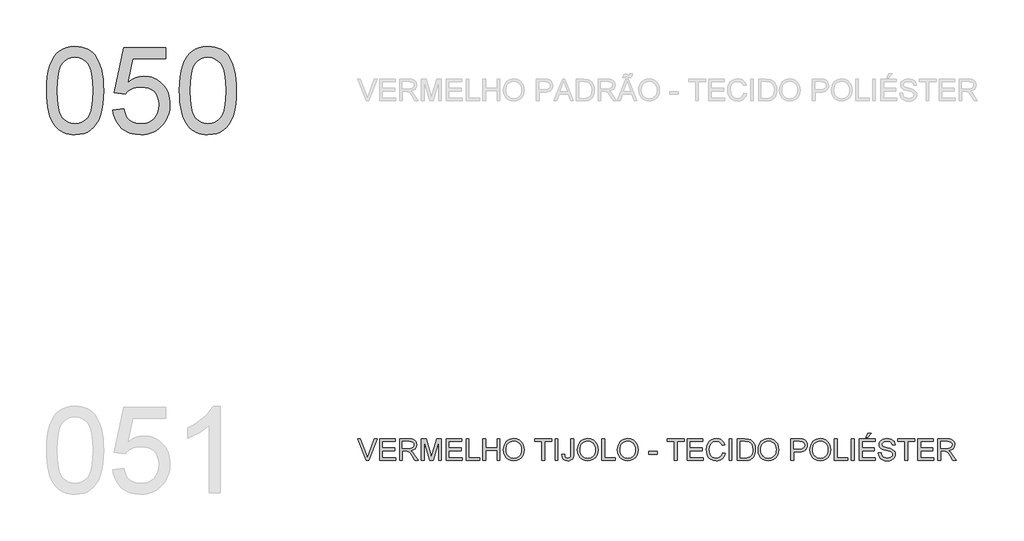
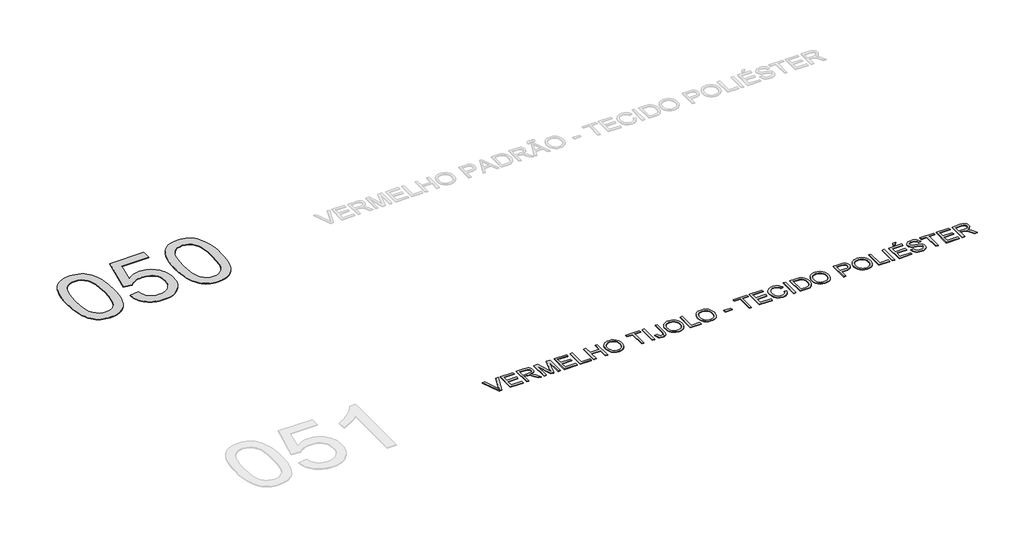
# One storey, part 24 of 39: 2 proxies.
"""IFC4 building model written with IfcOpenShell, lengths in millimetres."""

from ifc_helpers import new_model, si_unit, origin, origin_with_axes, place, context, project, spatial, polyline, outline, extrude, element, save

model = new_model("IFC4")

# Units and contexts
model_context = context("Model", 3, world=origin())
ifc_project = project(units=[si_unit("LENGTHUNIT", "METRE", prefix="MILLI")], contexts=[model_context])

# Site, building, storey
site = spatial("IfcSite", under=ifc_project)
building = spatial("IfcBuilding", under=site)
storey = spatial("IfcBuildingStorey", under=building, Name="Marelli - Linha PROFIT - Planta Baixa", Elevation=0.0)

# Proxies
placement = place(None, origin())
element("IfcBuildingElementProxy", 1, Name="1200mm Arial", ObjectType="1200mm Arial", at=placement, inside=storey, context=model_context, shape_type="SweptSolid", body=[
    extrude(outline(polyline([(-25228.2202746, -34387.5405438), (-25225.4519626, -34286.1798571), (-25217.1470265, -34194.5864374), (-25203.3054665, -34112.7602846), (-25183.9272824, -34040.7013988), (-25159.0952477, -33977.8211688), (-25128.8921359, -33923.5309833), (-25093.317947, -33877.8308425), (-25052.3726809, -33840.7207462), (-25005.918382, -33812.0075565), (-24953.8170944, -33791.4981353), (-24896.0688182, -33779.1924825), (-24832.6735534, -33775.0905983), (-24785.032835, -33777.5186194), (-24739.8201378, -33784.8026829), (-24697.0354618, -33796.9427888), (-24656.6788069, -33813.938937), (-24619.7250605, -33835.5060189), (-24587.1491098, -33861.3589261), (-24558.9509549, -33891.4976586), (-24535.1305957, -33925.9222163), (-24514.4924157, -33964.4946435), (-24495.8407986, -34007.0769844), (-24464.4972526, -34104.2714076), (-24452.5226937, -34161.4310726), (-24443.9694373, -34227.6958169), (-24438.8374834, -34303.0656407), (-24437.1268322, -34387.5405438), (-24439.867553, -34488.2574371), (-24448.0897156, -34579.3910043), (-24461.7933199, -34660.9412456), (-24480.978366, -34732.9081609), (-24505.6172626, -34795.8159821), (-24535.6824187, -34850.188941), (-24571.1738342, -34896.0270376), (-24612.0915091, -34933.3302719), (-24658.6009903, -34962.2365997), (-24710.8678248, -34982.8839766), (-24768.8920125, -34995.2724028), (-24832.6735534, -34999.4018782), (-24875.3478648, -34997.6084535), (-24915.6677315, -34992.2281793), (-24953.6331534, -34983.2610557), (-24989.2441305, -34970.7070826), (-25022.5006629, -34954.5662601), (-25053.4027505, -34934.8385881), (-25081.9503933, -34911.5240666), (-25108.1435914, -34884.6226957), (-25136.286564, -34842.0265592), (-25160.6771403, -34793.8478134), (-25181.3153202, -34740.0864583), (-25198.2011038, -34680.742494), (-25211.334491, -34615.8159204), (-25220.7154819, -34545.3067375), (-25226.3440764, -34469.2149453), (-25228.2202746, -34387.5405438)]), holes=[polyline([(-25077.5358094, -34387.2462382), (-25073.1212254, -34518.2398197), (-25059.8774736, -34624.2726077), (-25049.9446597, -34667.9287043), (-25037.8045539, -34705.3446024), (-25023.4571561, -34736.5203023), (-25006.9024663, -34761.4558037), (-24969.5256556, -34799.6327578), (-24928.0285665, -34826.9020107), (-24882.4111991, -34843.2635624), (-24832.6735534, -34848.717413), (-24782.9359076, -34843.2451683), (-24737.3185402, -34826.8284343), (-24695.8214512, -34799.4672109), (-24658.4446405, -34761.1614981), (-24641.8899507, -34736.1662158), (-24627.5425529, -34704.9583263), (-24615.402447, -34667.5378296), (-24605.4696332, -34623.9047257), (-24592.2258813, -34518.0006964), (-24587.8112974, -34387.2462382), (-24592.0787285, -34259.7199446), (-24604.881022, -34155.5541577), (-24614.482742, -34112.2314542), (-24626.2181777, -34074.7488774), (-24640.0873289, -34043.1064273), (-24656.0901957, -34017.3041039), (-24692.841607, -33977.2601487), (-24734.8169427, -33948.6573236), (-24782.0162026, -33931.4956285), (-24834.4393869, -33925.7750635), (-24883.9195153, -33930.8150468), (-24928.7643305, -33945.9349968), (-24968.9738326, -33971.1349135), (-25004.5480215, -34006.4147968), (-25021.6545343, -34034.9624397), (-25036.4801787, -34068.954736), (-25049.0249547, -34108.3916859), (-25059.2888624, -34153.2732893), (-25072.9740726, -34259.3704567), (-25077.5358094, -34387.2462382)])]), origin_with_axes(), (0.0, 0.0, 1.0), 10.0),
    extrude(outline(polyline([(-24305.2779251, -34660.3618315), (-24154.5934599, -34641.5262733), (-24143.3362708, -34689.967135), (-24126.9287338, -34731.9884559), (-24105.3708489, -34767.590236), (-24078.6626161, -34796.7724753), (-24046.8592176, -34819.4983855), (-24010.0158358, -34835.7311786), (-23968.1324706, -34845.4708544), (-23921.2091221, -34848.717413), (-23863.8195309, -34844.2016615), (-23813.1989683, -34830.654407), (-23769.3474345, -34808.0756496), (-23732.2649294, -34776.4653891), (-23702.7791875, -34737.3871242), (-23681.7179433, -34692.4043532), (-23669.0811967, -34641.5170763), (-23664.8689479, -34584.7252933), (-23668.8144823, -34531.0513102), (-23680.6510855, -34483.3370154), (-23700.3787575, -34441.5824089), (-23727.9974983, -34405.7874908), (-23763.5992783, -34377.0743011), (-23807.2760682, -34356.5648798), (-23859.0278679, -34344.2592271), (-23918.8546774, -34340.1573429), (-23957.141996, -34341.7944177), (-23991.9528298, -34346.7056424), (-24023.2871787, -34354.8910168), (-24051.1450428, -34366.3505409), (-24098.4178792, -34396.4432881), (-24135.7579017, -34434.3351336), (-24286.4423669, -34415.4995755), (-24154.5934599, -33793.9261564), (-23570.6911571, -33793.9261564), (-23570.6911571, -33944.6106217), (-24032.7509431, -33944.6106217), (-24097.2038686, -34276.5873341), (-24044.0265262, -34238.4747594), (-23989.5615968, -34211.2514918), (-23933.8090805, -34194.9175312), (-23876.7689771, -34189.4728776), (-23839.3300863, -34191.1605363), (-23803.3857161, -34196.2235123), (-23768.9358665, -34204.6618055), (-23735.9805376, -34216.4754161), (-23704.5197292, -34231.664344), (-23674.5534414, -34250.2285891), (-23646.0816742, -34272.1681516), (-23619.1044277, -34297.4830314), (-23594.5138156, -34325.4512601), (-23573.2019517, -34355.3508693), (-23555.1688362, -34387.1818589), (-23540.4144689, -34420.944229), (-23528.9388499, -34456.6379796), (-23520.7419792, -34494.2631106), (-23515.8238568, -34533.8196222), (-23514.1844827, -34575.3075142), (-23520.0889887, -34653.3720736), (-23527.4696212, -34690.3626082), (-23537.8025067, -34725.9919794), (-23551.0876453, -34760.2601873), (-23567.3250369, -34793.1672317), (-23586.5146814, -34824.7131128), (-23608.656579, -34854.8978305), (-23638.6573557, -34888.7659667), (-23671.2700946, -34918.1183514), (-23706.4947956, -34942.9549846), (-23744.3314588, -34963.2758663), (-23784.7800842, -34979.0809965), (-23827.8406717, -34990.3703752), (-23873.5132214, -34997.1440025), (-23921.7977333, -34999.4018782), (-23999.55879, -34993.5985397), (-24035.6181234, -34986.3443667), (-24069.79666, -34976.1885243), (-24102.0943999, -34963.1310128), (-24132.5113431, -34947.171832), (-24161.0474896, -34928.3109819), (-24187.7028394, -34906.5484626), (-24212.0405327, -34882.3901119), (-24233.6237095, -34856.3417673), (-24252.4523698, -34828.4034291), (-24268.5265138, -34798.5750971), (-24281.8461413, -34766.8567713), (-24292.4112523, -34733.2484518), (-24305.2779251, -34660.3618315)])), origin_with_axes(), (0.0, 0.0, 1.0), 10.0),
    extrude(outline(polyline([(-23382.3355756, -34387.5405438), (-23379.5672636, -34286.1798571), (-23371.2623275, -34194.5864374), (-23357.4207675, -34112.7602846), (-23338.0425834, -34040.7013988), (-23313.2105487, -33977.8211688), (-23283.0074369, -33923.5309833), (-23247.433248, -33877.8308425), (-23206.4879819, -33840.7207462), (-23160.033683, -33812.0075565), (-23107.9323954, -33791.4981353), (-23050.1841192, -33779.1924825), (-22986.7888544, -33775.0905983), (-22939.148136, -33777.5186194), (-22893.9354388, -33784.8026829), (-22851.1507628, -33796.9427888), (-22810.7941079, -33813.938937), (-22773.8403615, -33835.5060189), (-22741.2644108, -33861.3589261), (-22713.0662559, -33891.4976586), (-22689.2458967, -33925.9222163), (-22668.6077167, -33964.4946435), (-22649.9560996, -34007.0769844), (-22618.6125536, -34104.2714076), (-22606.6379947, -34161.4310726), (-22598.0847383, -34227.6958169), (-22592.9527844, -34303.0656407), (-22591.2421332, -34387.5405438), (-22593.982854, -34488.2574371), (-22602.2050166, -34579.3910043), (-22615.9086209, -34660.9412456), (-22635.093667, -34732.9081609), (-22659.7325636, -34795.8159821), (-22689.7977197, -34850.188941), (-22725.2891352, -34896.0270376), (-22766.2068101, -34933.3302719), (-22812.7162913, -34962.2365997), (-22864.9831258, -34982.8839766), (-22923.0073135, -34995.2724028), (-22986.7888544, -34999.4018782), (-23029.4631658, -34997.6084535), (-23069.7830325, -34992.2281793), (-23107.7484544, -34983.2610557), (-23143.3594315, -34970.7070826), (-23176.6159639, -34954.5662601), (-23207.5180515, -34934.8385881), (-23236.0656943, -34911.5240666), (-23262.2588924, -34884.6226957), (-23290.401865, -34842.0265592), (-23314.7924413, -34793.8478134), (-23335.4306212, -34740.0864583), (-23352.3164048, -34680.742494), (-23365.449792, -34615.8159204), (-23374.8307829, -34545.3067375), (-23380.4593774, -34469.2149453), (-23382.3355756, -34387.5405438)]), holes=[polyline([(-23231.6511104, -34387.2462382), (-23227.2365264, -34518.2398197), (-23213.9927746, -34624.2726077), (-23204.0599607, -34667.9287043), (-23191.9198549, -34705.3446024), (-23177.5724571, -34736.5203023), (-23161.0177673, -34761.4558037), (-23123.6409566, -34799.6327578), (-23082.1438675, -34826.9020107), (-23036.5265001, -34843.2635624), (-22986.7888544, -34848.717413), (-22937.0512086, -34843.2451683), (-22891.4338412, -34826.8284343), (-22849.9367522, -34799.4672109), (-22812.5599415, -34761.1614981), (-22796.0052517, -34736.1662158), (-22781.6578539, -34704.9583263), (-22769.517748, -34667.5378296), (-22759.5849342, -34623.9047257), (-22746.3411823, -34518.0006964), (-22741.9265984, -34387.2462382), (-22746.1940295, -34259.7199446), (-22758.996323, -34155.5541577), (-22768.598043, -34112.2314542), (-22780.3334787, -34074.7488774), (-22794.2026299, -34043.1064273), (-22810.2054967, -34017.3041039), (-22846.956908, -33977.2601487), (-22888.9322437, -33948.6573236), (-22936.1315036, -33931.4956285), (-22988.554688, -33925.7750635), (-23038.0348163, -33930.8150468), (-23082.8796315, -33945.9349968), (-23123.0891336, -33971.1349135), (-23158.6633225, -34006.4147968), (-23175.7698353, -34034.9624397), (-23190.5954797, -34068.954736), (-23203.1402557, -34108.3916859), (-23213.4041634, -34153.2732893), (-23227.0893736, -34259.3704567), (-23231.6511104, -34387.2462382)])]), origin_with_axes(), (0.0, 0.0, 1.0), 10.0),
])
element("IfcBuildingElementProxy", 2, Name="300mm Arial", ObjectType="300mm Arial", at=placement, inside=storey, context=model_context, shape_type="SweptSolid", body=[
    extrude(outline(polyline([(-20789.4399329, -39530.5663201), (-20909.3694633, -39229.1973896), (-20869.0495966, -39229.1973896), (-20788.7777453, -39446.3213432), (-20772.5173611, -39495.2496485), (-20756.4777061, -39446.3213432), (-20675.9851255, -39229.1973896), (-20635.6652589, -39229.1973896), (-20750.5180178, -39530.5663201), (-20789.4399329, -39530.5663201)])), origin_with_axes(), (0.0, 0.0, 1.0), 10.0),
    extrude(outline(polyline([(-20600.6428929, -39530.5663201), (-20600.6428929, -39229.1973896), (-20384.0339742, -39229.1973896), (-20384.0339742, -39266.8685059), (-20562.9717766, -39266.8685059), (-20562.9717766, -39356.3374072), (-20393.4517532, -39356.3374072), (-20393.4517532, -39394.0085235), (-20562.9717766, -39394.0085235), (-20562.9717766, -39492.8952038), (-20379.3250846, -39492.8952038), (-20379.3250846, -39530.5663201), (-20600.6428929, -39530.5663201)])), origin_with_axes(), (0.0, 0.0, 1.0), 10.0),
    extrude(outline(polyline([(-20322.8184102, -39530.5663201), (-20322.8184102, -39229.1973896), (-20192.9560659, -39229.1973896), (-20158.0532616, -39231.2299376), (-20132.6602069, -39237.3275817), (-20114.1005602, -39248.5847708), (-20099.6979801, -39266.0959537), (-20090.454945, -39287.8101885), (-20087.3739333, -39311.6765329), (-20092.4782959, -39341.3646099), (-20107.791384, -39365.9759154), (-20119.3911631, -39376.0052983), (-20133.7730499, -39384.0205273), (-20170.8831462, -39394.0085235), (-20149.472414, -39410.1217548), (-20118.9382084, -39448.8965171), (-20068.6855279, -39530.5663201), (-20112.4634853, -39530.5663201), (-20151.679706, -39468.0999573), (-20180.0066196, -39426.750021), (-20199.9090356, -39407.2154871), (-20217.8248887, -39400.0417882), (-20239.6770793, -39398.717413), (-20285.1472939, -39398.717413), (-20285.1472939, -39530.5663201), (-20322.8184102, -39530.5663201)]), holes=[polyline([(-20285.1472939, -39361.0462967), (-20200.8287406, -39361.0462967), (-20176.6129082, -39359.7127245), (-20157.8233353, -39355.7120078), (-20143.6782726, -39348.7774322), (-20133.3959709, -39338.6422832), (-20127.1327799, -39326.3826157), (-20125.0450496, -39313.0744845), (-20129.0273722, -39294.6987789), (-20140.97434, -39279.8915286), (-20161.5297464, -39270.1242616), (-20191.3373851, -39266.8685059), (-20285.1472939, -39266.8685059), (-20285.1472939, -39361.0462967)])]), origin_with_axes(), (0.0, 0.0, 1.0), 10.0),
    extrude(outline(polyline([(-20021.4494797, -39530.5663201), (-20021.4494797, -39229.1973896), (-19956.6286722, -39229.1973896), (-19894.9716498, -39441.6124536), (-19882.5372383, -39485.9790223), (-19869.0727573, -39437.9336337), (-19808.4458045, -39229.1973896), (-19743.624997, -39229.1973896), (-19743.624997, -39530.5663201), (-19781.2961133, -39530.5663201), (-19781.2961133, -39266.8685059), (-19857.0062279, -39530.5663201), (-19908.0682488, -39530.5663201), (-19983.7783634, -39266.8685059), (-19983.7783634, -39530.5663201), (-20021.4494797, -39530.5663201)])), origin_with_axes(), (0.0, 0.0, 1.0), 10.0),
    extrude(outline(polyline([(-19677.7005434, -39530.5663201), (-19677.7005434, -39229.1973896), (-19461.0916247, -39229.1973896), (-19461.0916247, -39266.8685059), (-19640.0294271, -39266.8685059), (-19640.0294271, -39356.3374072), (-19470.5094037, -39356.3374072), (-19470.5094037, -39394.0085235), (-19640.0294271, -39394.0085235), (-19640.0294271, -39492.8952038), (-19456.3827351, -39492.8952038), (-19456.3827351, -39530.5663201), (-19677.7005434, -39530.5663201)])), origin_with_axes(), (0.0, 0.0, 1.0), 10.0),
    extrude(outline(polyline([(-19399.8760607, -39530.5663201), (-19399.8760607, -39229.1973896), (-19362.2049444, -39229.1973896), (-19362.2049444, -39492.8952038), (-19211.5204791, -39492.8952038), (-19211.5204791, -39530.5663201), (-19399.8760607, -39530.5663201)])), origin_with_axes(), (0.0, 0.0, 1.0), 10.0),
    extrude(outline(polyline([(-19169.1404733, -39530.5663201), (-19169.1404733, -39229.1973896), (-19131.469357, -39229.1973896), (-19131.469357, -39351.6285176), (-18971.3671127, -39351.6285176), (-18971.3671127, -39229.1973896), (-18933.6959964, -39229.1973896), (-18933.6959964, -39530.5663201), (-18971.3671127, -39530.5663201), (-18971.3671127, -39389.2996339), (-19131.469357, -39389.2996339), (-19131.469357, -39530.5663201), (-19169.1404733, -39530.5663201)])), origin_with_axes(), (0.0, 0.0, 1.0), 10.0),
    extrude(outline(polyline([(-18881.8982115, -39383.8549804), (-18879.3874168, -39348.5061192), (-18871.855033, -39317.213157), (-18859.3010599, -39289.9760937), (-18841.7254976, -39266.7949295), (-18820.1814082, -39248.2858666), (-18795.7218541, -39235.0651074), (-18768.3468351, -39227.1326519), (-18738.0563513, -39224.4885001), (-18698.527431, -39229.454907), (-18663.0820007, -39244.3541278), (-18633.6514411, -39268.1376988), (-18612.1671326, -39299.7571563), (-18599.0337454, -39337.68579), (-18594.6559496, -39380.3968896), (-18599.2636716, -39423.6782064), (-18613.0868376, -39462.140269), (-18635.3620924, -39493.8149087), (-18665.3260809, -39516.733957), (-18700.4680085, -39530.6398965), (-18738.2770805, -39535.2752096), (-18778.4130062, -39530.1524528), (-18814.0607716, -39514.7841825), (-18843.4177548, -39490.5591531), (-18864.6813341, -39458.8661192), (-18877.5939921, -39422.3998164), (-18881.8982115, -39383.8549804)]), holes=[polyline([(-18844.2270952, -39384.2228624), (-18842.3439992, -39409.1974513), (-18836.6947113, -39431.3669401), (-18827.2792315, -39450.7313286), (-18814.0975597, -39467.2906169), (-18798.0739996, -39480.5527628), (-18780.1328545, -39490.0257242), (-18760.2741246, -39495.709501), (-18738.4978097, -39497.6040933), (-18716.3490144, -39495.6911069), (-18696.2557596, -39489.9521478), (-18678.2180456, -39480.3872159), (-18662.2358721, -39466.9963113), (-18649.1507694, -39450.0875351), (-18639.8042675, -39429.9689885), (-18634.1963663, -39406.6406715), (-18632.3270659, -39380.102584), (-18635.5276393, -39346.7540812), (-18645.1293594, -39317.9305269), (-18660.8839058, -39294.358488), (-18682.5429583, -39276.7645316), (-18708.671777, -39265.8108452), (-18737.8356221, -39262.1596164), (-18758.8554796, -39263.9185522), (-18778.3578239, -39269.1953595), (-18796.342655, -39277.9900385), (-18812.8099728, -39290.302589), (-18826.5549638, -39306.7262208), (-18836.3728146, -39327.8541437), (-18842.263525, -39353.6863575), (-18844.2270952, -39384.2228624)])]), origin_with_axes(), (0.0, 0.0, 1.0), 10.0),
    extrude(outline(polyline([(-18349.7936936, -39530.5663201), (-18349.7936936, -39266.8685059), (-18448.6803739, -39266.8685059), (-18448.6803739, -39229.1973896), (-18213.235897, -39229.1973896), (-18213.235897, -39266.8685059), (-18312.1225773, -39266.8685059), (-18312.1225773, -39530.5663201), (-18349.7936936, -39530.5663201)])), origin_with_axes(), (0.0, 0.0, 1.0), 10.0),
    extrude(outline(polyline([(-18166.1470016, -39530.5663201), (-18166.1470016, -39229.1973896), (-18128.4758853, -39229.1973896), (-18128.4758853, -39530.5663201), (-18166.1470016, -39530.5663201)])), origin_with_axes(), (0.0, 0.0, 1.0), 10.0),
    extrude(outline(polyline([(-18071.9692109, -39445.9534612), (-18034.2980946, -39441.0974188), (-18030.3801513, -39468.4862334), (-18021.4222247, -39485.6111403), (-18007.7370145, -39494.605855), (-17989.6372204, -39497.6040933), (-17975.7220839, -39495.9026391), (-17963.8486925, -39490.7982764), (-17954.6884308, -39482.7600548), (-17948.9126835, -39472.2570238), (-17944.8291933, -39434.9170013), (-17944.8291933, -39229.1973896), (-17907.158077, -39229.1973896), (-17907.158077, -39434.2548137), (-17909.4297484, -39467.7964546), (-17916.2447623, -39492.7848392), (-17927.9985921, -39511.0409832), (-17945.0867107, -39524.3859025), (-17966.5434281, -39532.5528828), (-17991.4030539, -39535.2752096), (-18026.2230848, -39529.6558121), (-18040.1704109, -39522.6315653), (-18051.8092775, -39512.7976197), (-18060.932751, -39500.1907636), (-18067.3338977, -39484.8477851), (-18071.9692109, -39445.9534612)])), origin_with_axes(), (0.0, 0.0, 1.0), 10.0),
    extrude(outline(polyline([(-17855.3602921, -39383.8549804), (-17852.8494975, -39348.5061192), (-17845.3171137, -39317.213157), (-17832.7631406, -39289.9760937), (-17815.1875782, -39266.7949295), (-17793.6434889, -39248.2858666), (-17769.1839347, -39235.0651074), (-17741.8089158, -39227.1326519), (-17711.518432, -39224.4885001), (-17671.9895116, -39229.454907), (-17636.5440814, -39244.3541278), (-17607.1135218, -39268.1376988), (-17585.6292133, -39299.7571563), (-17572.495826, -39337.68579), (-17568.1180303, -39380.3968896), (-17572.7257523, -39423.6782064), (-17586.5489182, -39462.140269), (-17608.8241731, -39493.8149087), (-17638.7881616, -39516.733957), (-17673.9300891, -39530.6398965), (-17711.7391612, -39535.2752096), (-17751.8750869, -39530.1524528), (-17787.5228522, -39514.7841825), (-17816.8798354, -39490.5591531), (-17838.1434147, -39458.8661192), (-17851.0560728, -39422.3998164), (-17855.3602921, -39383.8549804)]), holes=[polyline([(-17817.6891758, -39384.2228624), (-17815.8060799, -39409.1974513), (-17810.156792, -39431.3669401), (-17800.7413121, -39450.7313286), (-17787.5596404, -39467.2906169), (-17771.5360803, -39480.5527628), (-17753.5949352, -39490.0257242), (-17733.7362053, -39495.709501), (-17711.9598904, -39497.6040933), (-17689.811095, -39495.6911069), (-17669.7178403, -39489.9521478), (-17651.6801262, -39480.3872159), (-17635.6979528, -39466.9963113), (-17622.6128501, -39450.0875351), (-17613.2663481, -39429.9689885), (-17607.658447, -39406.6406715), (-17605.7891466, -39380.102584), (-17608.9897199, -39346.7540812), (-17618.59144, -39317.9305269), (-17634.3459865, -39294.358488), (-17656.0050389, -39276.7645316), (-17682.1338576, -39265.8108452), (-17711.2977028, -39262.1596164), (-17732.3175603, -39263.9185522), (-17751.8199046, -39269.1953595), (-17769.8047356, -39277.9900385), (-17786.2720534, -39290.302589), (-17800.0170445, -39306.7262208), (-17809.8348952, -39327.8541437), (-17815.7256057, -39353.6863575), (-17817.6891758, -39384.2228624)])]), origin_with_axes(), (0.0, 0.0, 1.0), 10.0),
    extrude(outline(polyline([(-17516.3202454, -39530.5663201), (-17516.3202454, -39229.1973896), (-17478.6491291, -39229.1973896), (-17478.6491291, -39492.8952038), (-17327.9646638, -39492.8952038), (-17327.9646638, -39530.5663201), (-17516.3202454, -39530.5663201)])), origin_with_axes(), (0.0, 0.0, 1.0), 10.0),
    extrude(outline(polyline([(-17299.7113266, -39383.8549804), (-17297.200532, -39348.5061192), (-17289.6681481, -39317.213157), (-17277.1141751, -39289.9760937), (-17259.5386127, -39266.7949295), (-17237.9945234, -39248.2858666), (-17213.5349692, -39235.0651074), (-17186.1599503, -39227.1326519), (-17155.8694665, -39224.4885001), (-17116.3405461, -39229.454907), (-17080.8951159, -39244.3541278), (-17051.4645563, -39268.1376988), (-17029.9802477, -39299.7571563), (-17016.8468605, -39337.68579), (-17012.4690648, -39380.3968896), (-17017.0767868, -39423.6782064), (-17030.8999527, -39462.140269), (-17053.1752075, -39493.8149087), (-17083.139196, -39516.733957), (-17118.2811236, -39530.6398965), (-17156.0901957, -39535.2752096), (-17196.2261214, -39530.1524528), (-17231.8738867, -39514.7841825), (-17261.2308699, -39490.5591531), (-17282.4944492, -39458.8661192), (-17295.4071073, -39422.3998164), (-17299.7113266, -39383.8549804)]), holes=[polyline([(-17262.0402103, -39384.2228624), (-17260.1571143, -39409.1974513), (-17254.5078264, -39431.3669401), (-17245.0923466, -39450.7313286), (-17231.9106749, -39467.2906169), (-17215.8871147, -39480.5527628), (-17197.9459697, -39490.0257242), (-17178.0872397, -39495.709501), (-17156.3109249, -39497.6040933), (-17134.1621295, -39495.6911069), (-17114.0688748, -39489.9521478), (-17096.0311607, -39480.3872159), (-17080.0489873, -39466.9963113), (-17066.9638846, -39450.0875351), (-17057.6173826, -39429.9689885), (-17052.0094815, -39406.6406715), (-17050.1401811, -39380.102584), (-17053.3407544, -39346.7540812), (-17062.9424745, -39317.9305269), (-17078.697021, -39294.358488), (-17100.3560734, -39276.7645316), (-17126.4848921, -39265.8108452), (-17155.6487373, -39262.1596164), (-17176.6685948, -39263.9185522), (-17196.1709391, -39269.1953595), (-17214.1557701, -39277.9900385), (-17230.6230879, -39290.302589), (-17244.368079, -39306.7262208), (-17254.1859297, -39327.8541437), (-17260.0766401, -39353.6863575), (-17262.0402103, -39384.2228624)])]), origin_with_axes(), (0.0, 0.0, 1.0), 10.0),
    extrude(outline(polyline([(-16866.4934891, -39441.0974188), (-16866.4934891, -39403.4263025), (-16748.7712506, -39403.4263025), (-16748.7712506, -39441.0974188), (-16866.4934891, -39441.0974188)])), origin_with_axes(), (0.0, 0.0, 1.0), 10.0),
    extrude(outline(polyline([(-16508.6178842, -39530.5663201), (-16508.6178842, -39266.8685059), (-16607.5045645, -39266.8685059), (-16607.5045645, -39229.1973896), (-16372.0600876, -39229.1973896), (-16372.0600876, -39266.8685059), (-16470.9467679, -39266.8685059), (-16470.9467679, -39530.5663201), (-16508.6178842, -39530.5663201)])), origin_with_axes(), (0.0, 0.0, 1.0), 10.0),
    extrude(outline(polyline([(-16329.6800817, -39530.5663201), (-16329.6800817, -39229.1973896), (-16113.071163, -39229.1973896), (-16113.071163, -39266.8685059), (-16292.0089654, -39266.8685059), (-16292.0089654, -39356.3374072), (-16122.488942, -39356.3374072), (-16122.488942, -39394.0085235), (-16292.0089654, -39394.0085235), (-16292.0089654, -39492.8952038), (-16108.3622734, -39492.8952038), (-16108.3622734, -39530.5663201), (-16329.6800817, -39530.5663201)])), origin_with_axes(), (0.0, 0.0, 1.0), 10.0),
    extrude(outline(polyline([(-15839.9555697, -39423.4390831), (-15802.2844534, -39433.1511677), (-15809.7386624, -39456.5783531), (-15819.6668777, -39477.0486868), (-15832.0690995, -39494.5621691), (-15846.9453277, -39509.1187997), (-15863.9598699, -39520.5622291), (-15882.777034, -39528.7361071), (-15903.3968198, -39533.640434), (-15925.8192274, -39535.2752096), (-15969.5144114, -39530.3271968), (-16004.2148806, -39515.4831583), (-16030.8127488, -39491.2581289), (-16050.20013, -39458.1671434), (-16062.0367332, -39419.2636224), (-16065.9822676, -39377.6009865), (-16061.5216984, -39333.6574821), (-16048.1399908, -39295.7104543), (-16026.5361206, -39264.9647166), (-15997.4090637, -39242.6250824), (-15962.8649443, -39229.0226457), (-15925.009887, -39224.4885001), (-15883.705936, -39230.3562179), (-15865.7371998, -39237.6908652), (-15849.5572898, -39247.9593714), (-15835.4329205, -39260.8904235), (-15823.6308062, -39276.2127086), (-15806.993343, -39314.0309777), (-15844.6644593, -39323.0072984), (-15857.7242701, -39295.5357104), (-15875.5665469, -39276.6909552), (-15898.4120188, -39265.7924511), (-15926.481415, -39262.1596164), (-15958.8366365, -39266.1879242), (-15985.4161106, -39278.2728478), (-16005.585241, -39297.1451941), (-16018.7094312, -39321.5357704), (-16025.9107213, -39349.1085259), (-16028.3111513, -39377.5274101), (-16025.4692629, -39412.3290468), (-16016.9435976, -39442.421794), (-16002.4122588, -39466.6560205), (-15981.5533497, -39483.8820949), (-15956.5465711, -39494.1735937), (-15929.5716238, -39497.6040933), (-15898.1269102, -39492.931992), (-15871.9245151, -39478.9156879), (-15852.1416608, -39455.702334), (-15839.9555697, -39423.4390831)])), origin_with_axes(), (0.0, 0.0, 1.0), 10.0),
    extrude(outline(polyline([(-15745.777779, -39530.5663201), (-15745.777779, -39229.1973896), (-15708.1066627, -39229.1973896), (-15708.1066627, -39530.5663201), (-15745.777779, -39530.5663201)])), origin_with_axes(), (0.0, 0.0, 1.0), 10.0),
    extrude(outline(polyline([(-15632.7644301, -39530.5663201), (-15632.7644301, -39229.1973896), (-15528.8009782, -39229.1973896), (-15475.0166305, -39233.5383972), (-15450.9939362, -39241.9077126), (-15430.7236383, -39255.0962821), (-15409.8831233, -39278.0521186), (-15395.0390848, -39306.5997614), (-15386.1547346, -39340.1873876), (-15383.1932845, -39378.2631741), (-15385.1982414, -39410.6091985), (-15391.213112, -39439.0740679), (-15400.3733737, -39463.3082943), (-15411.8145038, -39482.9623899), (-15424.9846792, -39498.477813), (-15439.332077, -39510.2960221), (-15455.8039933, -39519.0608107), (-15475.3477243, -39525.4159721), (-15523.7977831, -39530.5663201), (-15632.7644301, -39530.5663201)]), holes=[polyline([(-15595.0933138, -39492.8952038), (-15528.4330962, -39492.8952038), (-15500.8603407, -39491.5340404), (-15479.9462493, -39487.4505502), (-15464.1641117, -39480.8838566), (-15451.9872176, -39472.0730828), (-15438.8998157, -39455.7667134), (-15429.0681693, -39434.6594839), (-15422.915343, -39408.6594239), (-15420.8644008, -39377.6745629), (-15424.8835116, -39336.6189322), (-15436.940844, -39306.3054558), (-15454.7555296, -39285.4833349), (-15476.0467001, -39272.9017706), (-15497.7149496, -39268.3768221), (-15529.4631658, -39266.8685059), (-15595.0933138, -39266.8685059), (-15595.0933138, -39492.8952038)])]), origin_with_axes(), (0.0, 0.0, 1.0), 10.0),
    extrude(outline(polyline([(-15345.5221682, -39383.8549804), (-15343.0113736, -39348.5061192), (-15335.4789898, -39317.213157), (-15322.9250167, -39289.9760937), (-15305.3494544, -39266.7949295), (-15283.805365, -39248.2858666), (-15259.3458109, -39235.0651074), (-15231.9707919, -39227.1326519), (-15201.6803081, -39224.4885001), (-15162.1513877, -39229.454907), (-15126.7059575, -39244.3541278), (-15097.2753979, -39268.1376988), (-15075.7910894, -39299.7571563), (-15062.6577021, -39337.68579), (-15058.2799064, -39380.3968896), (-15062.8876284, -39423.6782064), (-15076.7107943, -39462.140269), (-15098.9860492, -39493.8149087), (-15128.9500377, -39516.733957), (-15164.0919653, -39530.6398965), (-15201.9010373, -39535.2752096), (-15242.036963, -39530.1524528), (-15277.6847283, -39514.7841825), (-15307.0417115, -39490.5591531), (-15328.3052909, -39458.8661192), (-15341.2179489, -39422.3998164), (-15345.5221682, -39383.8549804)]), holes=[polyline([(-15307.8510519, -39384.2228624), (-15305.967956, -39409.1974513), (-15300.3186681, -39431.3669401), (-15290.9031883, -39450.7313286), (-15277.7215165, -39467.2906169), (-15261.6979564, -39480.5527628), (-15243.7568113, -39490.0257242), (-15223.8980814, -39495.709501), (-15202.1217665, -39497.6040933), (-15179.9729711, -39495.6911069), (-15159.8797164, -39489.9521478), (-15141.8420023, -39480.3872159), (-15125.8598289, -39466.9963113), (-15112.7747262, -39450.0875351), (-15103.4282242, -39429.9689885), (-15097.8203231, -39406.6406715), (-15095.9510227, -39380.102584), (-15099.1515961, -39346.7540812), (-15108.7533161, -39317.9305269), (-15124.5078626, -39294.358488), (-15146.166915, -39276.7645316), (-15172.2957337, -39265.8108452), (-15201.4595789, -39262.1596164), (-15222.4794364, -39263.9185522), (-15241.9817807, -39269.1953595), (-15259.9666117, -39277.9900385), (-15276.4339295, -39290.302589), (-15290.1789206, -39306.7262208), (-15299.9967713, -39327.8541437), (-15305.8874818, -39353.6863575), (-15307.8510519, -39384.2228624)])]), origin_with_axes(), (0.0, 0.0, 1.0), 10.0),
    extrude(outline(polyline([(-14888.759883, -39530.5663201), (-14888.759883, -39229.1973896), (-14777.0709093, -39229.1973896), (-14732.0421531, -39232.0668692), (-14711.9649932, -39237.4287493), (-14695.4378945, -39246.1567496), (-14682.1297634, -39258.6463433), (-14671.7095059, -39275.2930036), (-14664.9772653, -39294.9287051), (-14662.7331852, -39316.3854225), (-14664.2483991, -39334.8852883), (-14668.794041, -39351.9044291), (-14676.3701109, -39367.4428449), (-14686.9766087, -39381.5005356), (-14701.5378379, -39393.1531978), (-14720.9781021, -39401.476528), (-14745.2974012, -39406.470526), (-14774.4957353, -39408.1351921), (-14851.0887667, -39408.1351921), (-14851.0887667, -39530.5663201), (-14888.759883, -39530.5663201)]), holes=[polyline([(-14851.0887667, -39370.4640758), (-14772.2884433, -39370.4640758), (-14738.8847582, -39367.005985), (-14716.8118385, -39356.6317127), (-14704.5061857, -39339.9850525), (-14700.4043015, -39317.7097977), (-14702.8231256, -39300.7872259), (-14710.079598, -39286.5134045), (-14721.2724077, -39275.7712502), (-14735.5002438, -39269.4436799), (-14773.1713601, -39266.8685059), (-14851.0887667, -39266.8685059), (-14851.0887667, -39370.4640758)])]), origin_with_axes(), (0.0, 0.0, 1.0), 10.0),
    extrude(outline(polyline([(-14625.0620689, -39383.8549804), (-14622.5512743, -39348.5061192), (-14615.0188904, -39317.213157), (-14602.4649173, -39289.9760937), (-14584.889355, -39266.7949295), (-14563.3452657, -39248.2858666), (-14538.8857115, -39235.0651074), (-14511.5106925, -39227.1326519), (-14481.2202088, -39224.4885001), (-14441.6912884, -39229.454907), (-14406.2458581, -39244.3541278), (-14376.8152985, -39268.1376988), (-14355.33099, -39299.7571563), (-14342.1976028, -39337.68579), (-14337.819807, -39380.3968896), (-14342.427529, -39423.6782064), (-14356.250695, -39462.140269), (-14378.5259498, -39493.8149087), (-14408.4899383, -39516.733957), (-14443.6318659, -39530.6398965), (-14481.440938, -39535.2752096), (-14521.5768636, -39530.1524528), (-14557.224629, -39514.7841825), (-14586.5816122, -39490.5591531), (-14607.8451915, -39458.8661192), (-14620.7578495, -39422.3998164), (-14625.0620689, -39383.8549804)]), holes=[polyline([(-14587.3909526, -39384.2228624), (-14585.5078566, -39409.1974513), (-14579.8585687, -39431.3669401), (-14570.4430889, -39450.7313286), (-14557.2614172, -39467.2906169), (-14541.237857, -39480.5527628), (-14523.296712, -39490.0257242), (-14503.437982, -39495.709501), (-14481.6616672, -39497.6040933), (-14459.5128718, -39495.6911069), (-14439.4196171, -39489.9521478), (-14421.381903, -39480.3872159), (-14405.3997296, -39466.9963113), (-14392.3146268, -39450.0875351), (-14382.9681249, -39429.9689885), (-14377.3602237, -39406.6406715), (-14375.4909233, -39380.102584), (-14378.6914967, -39346.7540812), (-14388.2932168, -39317.9305269), (-14404.0477632, -39294.358488), (-14425.7068157, -39276.7645316), (-14451.8356344, -39265.8108452), (-14480.9994796, -39262.1596164), (-14502.0193371, -39263.9185522), (-14521.5216813, -39269.1953595), (-14539.5065124, -39277.9900385), (-14555.9738302, -39290.302589), (-14569.7188212, -39306.7262208), (-14579.536672, -39327.8541437), (-14585.4273824, -39353.6863575), (-14587.3909526, -39384.2228624)])]), origin_with_axes(), (0.0, 0.0, 1.0), 10.0),
    extrude(outline(polyline([(-14286.0220221, -39530.5663201), (-14286.0220221, -39229.1973896), (-14248.3509058, -39229.1973896), (-14248.3509058, -39492.8952038), (-14097.6664406, -39492.8952038), (-14097.6664406, -39530.5663201), (-14286.0220221, -39530.5663201)])), origin_with_axes(), (0.0, 0.0, 1.0), 10.0),
    extrude(outline(polyline([(-14050.5775452, -39530.5663201), (-14050.5775452, -39229.1973896), (-14012.9064289, -39229.1973896), (-14012.9064289, -39530.5663201), (-14050.5775452, -39530.5663201)])), origin_with_axes(), (0.0, 0.0, 1.0), 10.0),
    extrude(outline(polyline([(-13937.5641963, -39530.5663201), (-13937.5641963, -39229.1973896), (-13720.9552775, -39229.1973896), (-13720.9552775, -39266.8685059), (-13899.89308, -39266.8685059), (-13899.89308, -39356.3374072), (-13730.3730566, -39356.3374072), (-13730.3730566, -39394.0085235), (-13899.89308, -39394.0085235), (-13899.89308, -39492.8952038), (-13716.246388, -39492.8952038), (-13716.246388, -39530.5663201), (-13937.5641963, -39530.5663201)])), origin_with_axes(), (0.0, 0.0, 1.0), 10.0),
    extrude(outline(polyline([(-13852.8041846, -39210.3618315), (-13824.5508474, -39153.855157), (-13777.461952, -39153.855157), (-13824.5508474, -39210.3618315), (-13852.8041846, -39210.3618315)])), origin_with_axes(), (0.0, 0.0, 1.0), 10.0),
    extrude(outline(polyline([(-13673.8663821, -39426.9707502), (-13636.1952658, -39426.9707502), (-13631.8726524, -39447.8756446), (-13624.05516, -39464.6786547), (-13611.8598719, -39478.0143771), (-13594.4038712, -39488.517408), (-13573.0667155, -39495.332422), (-13549.2279622, -39497.6040933), (-13528.2402944, -39495.884245), (-13509.8645887, -39490.7247), (-13494.9745649, -39482.5577197), (-13484.4439428, -39471.8155654), (-13478.1807519, -39459.4823215), (-13476.0930215, -39446.5420724), (-13477.65652, -39433.932917), (-13482.3470155, -39423.0344129), (-13491.8751591, -39413.7361954), (-13507.9516023, -39405.9279001), (-13562.8028078, -39391.5437141), (-13598.8092581, -39382.0247675), (-13621.847868, -39372.9656733), (-13640.6006527, -39360.2921386), (-13653.8903898, -39344.9330653), (-13661.8090498, -39327.2195472), (-13664.4486031, -39307.4826782), (-13661.1836504, -39285.4189555), (-13651.3887922, -39264.845155), (-13635.3215461, -39247.4075484), (-13613.2394293, -39234.7524077), (-13586.7335316, -39227.054477), (-13557.3949425, -39224.4885001), (-13525.6099381, -39227.1740386), (-13497.7980593, -39235.2306543), (-13474.9525874, -39248.4928003), (-13458.0668038, -39266.7949295), (-13447.3798318, -39288.9966079), (-13443.1307948, -39313.9574013), (-13480.8019111, -39313.9574013), (-13487.7180926, -39291.4798114), (-13502.1390668, -39275.2562154), (-13524.671839, -39265.4337661), (-13555.9234145, -39262.1596164), (-13587.910754, -39265.3969779), (-13609.854915, -39275.1090626), (-13622.5468438, -39289.4012781), (-13626.7774868, -39306.3790322), (-13623.7792485, -39320.8551887), (-13614.7845337, -39332.4986539), (-13593.5209544, -39342.9097143), (-13553.2746641, -39353.541504), (-13511.7407869, -39363.6398648), (-13486.6144466, -39372.4506385), (-13465.1393351, -39386.1174547), (-13450.1573409, -39402.9848441), (-13441.3557641, -39422.868866), (-13438.4219052, -39445.5855792), (-13441.7972225, -39468.8081301), (-13451.9231745, -39490.6511236), (-13468.3858937, -39509.4498935), (-13490.7715131, -39523.539774), (-13517.6912781, -39532.3413507), (-13547.7564342, -39535.2752096), (-13584.6641954, -39532.1114244), (-13615.0420511, -39522.620069), (-13639.2394893, -39506.764355), (-13657.605998, -39484.5074943), (-13669.3966159, -39457.3945912), (-13673.8663821, -39426.9707502)])), origin_with_axes(), (0.0, 0.0, 1.0), 10.0),
    extrude(outline(polyline([(-13306.5729982, -39530.5663201), (-13306.5729982, -39266.8685059), (-13405.4596785, -39266.8685059), (-13405.4596785, -39229.1973896), (-13170.0152015, -39229.1973896), (-13170.0152015, -39266.8685059), (-13268.9018819, -39266.8685059), (-13268.9018819, -39530.5663201), (-13306.5729982, -39530.5663201)])), origin_with_axes(), (0.0, 0.0, 1.0), 10.0),
    extrude(outline(polyline([(-13127.6351957, -39530.5663201), (-13127.6351957, -39229.1973896), (-12911.0262769, -39229.1973896), (-12911.0262769, -39266.8685059), (-13089.9640794, -39266.8685059), (-13089.9640794, -39356.3374072), (-12920.444056, -39356.3374072), (-12920.444056, -39394.0085235), (-13089.9640794, -39394.0085235), (-13089.9640794, -39492.8952038), (-12906.3173874, -39492.8952038), (-12906.3173874, -39530.5663201), (-13127.6351957, -39530.5663201)])), origin_with_axes(), (0.0, 0.0, 1.0), 10.0),
    extrude(outline(polyline([(-12849.8107129, -39530.5663201), (-12849.8107129, -39229.1973896), (-12719.9483686, -39229.1973896), (-12685.0455644, -39231.2299376), (-12659.6525096, -39237.3275817), (-12641.092863, -39248.5847708), (-12626.6902829, -39266.0959537), (-12617.4472477, -39287.8101885), (-12614.366236, -39311.6765329), (-12619.4705987, -39341.3646099), (-12634.7836868, -39365.9759154), (-12646.3834659, -39376.0052983), (-12660.7653527, -39384.0205273), (-12697.8754489, -39394.0085235), (-12676.4647168, -39410.1217548), (-12645.9305112, -39448.8965171), (-12595.6778307, -39530.5663201), (-12639.4557881, -39530.5663201), (-12678.6720088, -39468.0999573), (-12706.9989224, -39426.750021), (-12726.9013384, -39407.2154871), (-12744.8171915, -39400.0417882), (-12766.669382, -39398.717413), (-12812.1395966, -39398.717413), (-12812.1395966, -39530.5663201), (-12849.8107129, -39530.5663201)]), holes=[polyline([(-12812.1395966, -39361.0462967), (-12727.8210433, -39361.0462967), (-12703.605211, -39359.7127245), (-12684.8156381, -39355.7120078), (-12670.6705754, -39348.7774322), (-12660.3882736, -39338.6422832), (-12654.1250827, -39326.3826157), (-12652.0373523, -39313.0744845), (-12656.0196749, -39294.6987789), (-12667.9666427, -39279.8915286), (-12688.5220492, -39270.1242616), (-12718.3296879, -39266.8685059), (-12812.1395966, -39266.8685059), (-12812.1395966, -39361.0462967)])]), origin_with_axes(), (0.0, 0.0, 1.0), 10.0),
])

save(model, "model.ifc")
